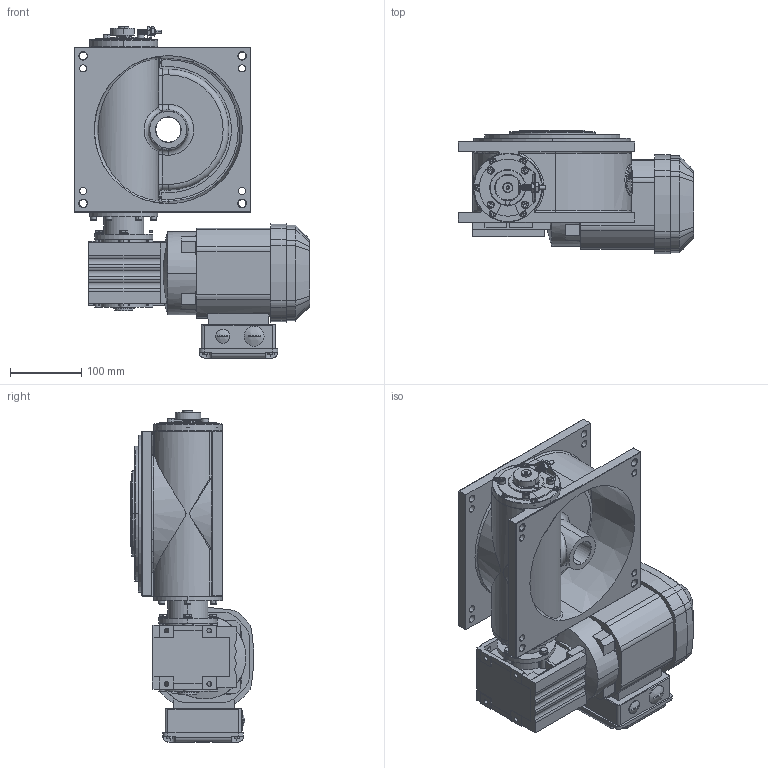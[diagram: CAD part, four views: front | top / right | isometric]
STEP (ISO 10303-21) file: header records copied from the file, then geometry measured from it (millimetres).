
FILE_DESCRIPTION (( 'STEP AP214' ), '1' );
FILE_NAME ('M190_SEW_WA20DRS71S4_E1.STEP', '2021-01-25T15:07:32', ( '' ), ( '' ), 'SwSTEP 2.0', 'SolidWorks 2020', '' );
FILE_SCHEMA (( 'AUTOMOTIVE_DESIGN' ));
Length unit declared in the file: millimetre
Products named in the file (1): M190_SEW_WA20DRS71S4_E1
Bounding box: 330.5 x 172.74 x 466.05 mm (x, y, z)
Surface area: 591527.2 mm2 (no closed solid volume)
Topology: 0 solids, 52 shells, 1251 faces, 3764 edges, 2471 vertices
Faces by surface type: plane 519, cylinder 413, cone 149, bspline 95, torus 63, sphere 12
Entity records: 65212 total; most frequent: CARTESIAN_POINT 18349, DIRECTION 6900, ORIENTED_EDGE 6523, EDGE_CURVE 3733, VERTEX_POINT 2471, AXIS2_PLACEMENT_3D 2469, LINE 1962, VECTOR 1962
